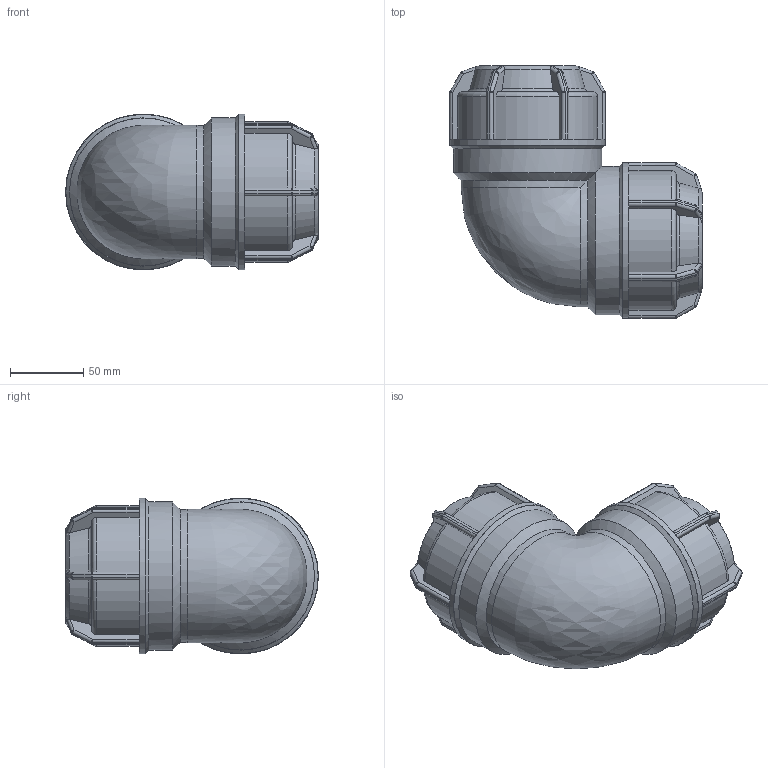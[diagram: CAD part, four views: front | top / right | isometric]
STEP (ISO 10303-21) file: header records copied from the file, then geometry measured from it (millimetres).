
FILE_DESCRIPTION(/* description */ ('PLASSON L.14 90° ELBOW (SILVER) 63-63'),/* implementation_level */ '2;1');
FILE_NAME(/* name */ 'C:\Dropbox\KIMPROJECTS-Inventor\99-16-3568-Processing\Silver+MF ISRAEL\140500\140500063.ipt.stp',/* time_stamp */ '2018-04-09T13:03:50+03:00',/* author */ ('KIM'),/* organization */ (''),/* preprocessor_version */ 'ST-DEVELOPER v15.6',/* originating_system */ 'Autodesk Inventor 2015',/* authorisation */ '');
FILE_SCHEMA (('AUTOMOTIVE_DESIGN { 1 0 10303 214 3 1 1 }'));
Length unit declared in the file: millimetre
Products named in the file (1): 140500063
Bounding box: 172 x 172 x 106 mm (x, y, z)
Volume: 855811.3 mm3; surface area: 125764.5 mm2
Topology: 1 solids, 1 shells, 409 faces, 972 edges, 557 vertices
Faces by surface type: plane 193, cylinder 120, sphere 48, torus 29, cone 18, bspline 1
Full cylindrical faces by diameter (mm): 56.7 x2, 63 x4, 100.8 x2, 106 x2
Entity records: 11844 total; most frequent: CARTESIAN_POINT 3044, DIRECTION 1854, ORIENTED_EDGE 1818, EDGE_CURVE 909, AXIS2_PLACEMENT_3D 747, VERTEX_POINT 532, EDGE_LOOP 431, FACE_OUTER_BOUND 404
